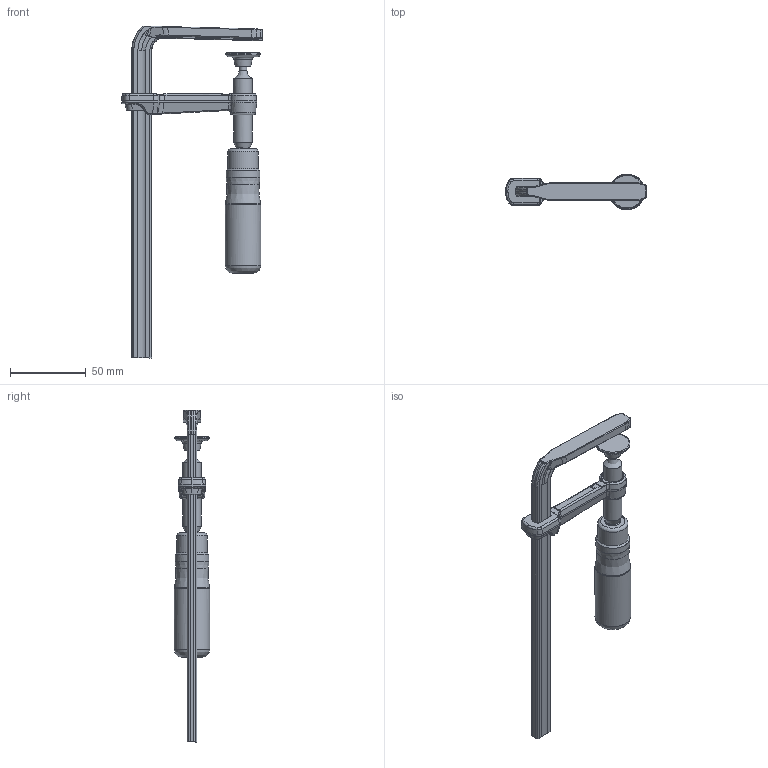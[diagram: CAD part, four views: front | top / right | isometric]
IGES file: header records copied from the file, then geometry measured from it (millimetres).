
Start section: ZWSOFT
Global section: file name: GTR16B6.igs; native system: ZW3D; preprocessor: 1.0; author: ZW3D; organization: ZWSOFT; date: 160211.155904; units: millimetre
Bounding box: 93.01 x 23.5 x 219.06 mm (x, y, z)
Surface area: 27025.7 mm2 (no closed solid volume)
Topology: 0 solids, 0 shells, 487 faces, 2468 edges, 2412 vertices
Faces by surface type: bspline 487
